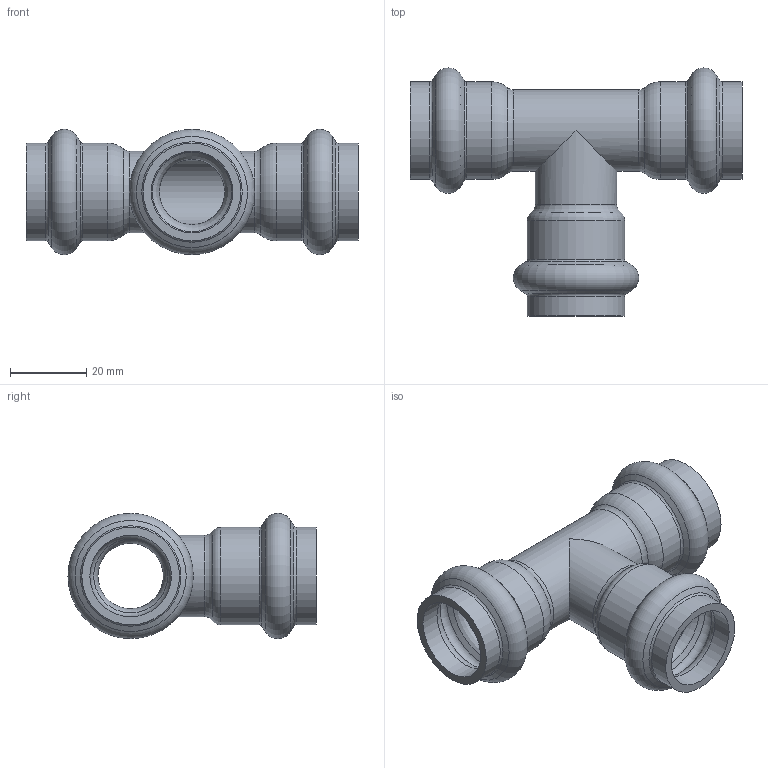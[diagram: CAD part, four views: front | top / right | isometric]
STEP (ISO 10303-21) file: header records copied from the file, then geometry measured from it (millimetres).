
FILE_DESCRIPTION(/* description */ ('VIC TEE STYLE P592 (P X P X P)','CAx-IF Rec.Pracs.---Representation and Presentation of Product Manufacturing Information (PMI)---4.0---2014-10-13'),/* implementation_level */ '2;1');
FILE_NAME(/* name */ 'C:\Users\Vjadhav\AppData\Roaming\Autodesk\ApplicationPlugins\Back Up\Victaulic_SS-Vic-Press-TP 304_Tee_Style P592 (VP)\Victaulic_SS-Vic-Press-TP 304_Tee_Style P592 (VP)_0.5 (15).stp',/* time_stamp */ '2020-08-12T19:00:48+06:00',/* author */ ('cgray'),/* organization */ ('Victaulic'),/* preprocessor_version */ 'ST-DEVELOPER v17.2',/* originating_system */ 'Autodesk Inventor 2019',/* authorisation */ '');
FILE_SCHEMA (('AP242_MANAGED_MODEL_BASED_3D_ENGINEERING_MIM_LF { 1 0 10303 442 1 1 4 }'));
Length unit declared in the file: inch
Products named in the file (1): P592-0.5
Bounding box: 86.87 x 64.92 x 32.82 mm (x, y, z)
Volume: 20470.6 mm3; surface area: 19873.9 mm2
Topology: 1 solids, 1 shells, 61 faces, 220 edges, 160 vertices
Faces by surface type: torus 30, cylinder 16, cone 12, plane 3
Full cylindrical faces by diameter (mm): 17.12 x2, 21.336 x8, 25.552 x6
Entity records: 2745 total; most frequent: DIRECTION 560, CARTESIAN_POINT 459, ORIENTED_EDGE 440, AXIS2_PLACEMENT_3D 265, EDGE_CURVE 220, CIRCLE 182, VERTEX_POINT 160, EDGE_LOOP 64
